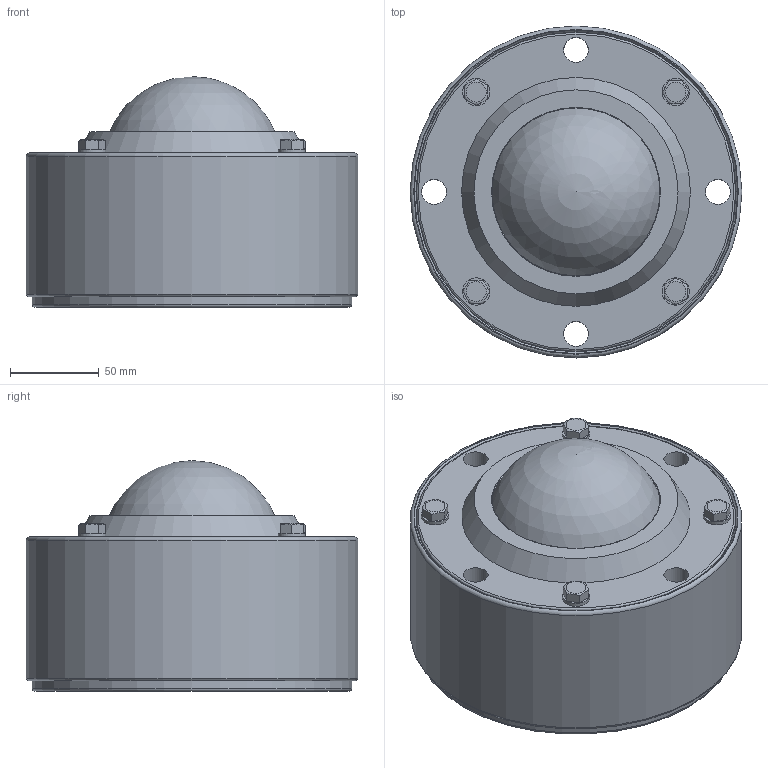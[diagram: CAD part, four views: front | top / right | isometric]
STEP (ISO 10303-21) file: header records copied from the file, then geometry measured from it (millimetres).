
FILE_DESCRIPTION(/* description */ (''),/* implementation_level */ '2;1');
FILE_NAME(/* name */ 'Z:\34-Tei\web 3Dデータ\IS型\IS-100.stp',/* time_stamp */ '2015-01-06T15:20:37+09:00',/* author */ ('yamaki'),/* organization */ (''),/* preprocessor_version */ 'ST-DEVELOPER v15.6',/* originating_system */ 'Autodesk Inventor 2015',/* authorisation */ '');
FILE_SCHEMA (('AUTOMOTIVE_DESIGN { 1 0 10303 214 3 1 1 }'));
Length unit declared in the file: millimetre
Products named in the file (1): IS-100
Bounding box: 187 x 187 x 130 mm (x, y, z)
Volume: 2585681.6 mm3; surface area: 134642.9 mm2
Topology: 1 solids, 1 shells, 67 faces, 148 edges, 96 vertices
Faces by surface type: plane 39, cylinder 14, torus 10, cone 3, sphere 1
Full cylindrical faces by diameter (mm): 14 x4, 15.4 x4, 70 x1, 94.6 x1, 179.8 x1, 180 x1, 180.4 x1, 187 x1
Entity records: 1952 total; most frequent: CARTESIAN_POINT 512, DIRECTION 268, ORIENTED_EDGE 228, EDGE_LOOP 116, EDGE_CURVE 114, AXIS2_PLACEMENT_3D 110, VERTEX_POINT 90, STYLED_ITEM 68
